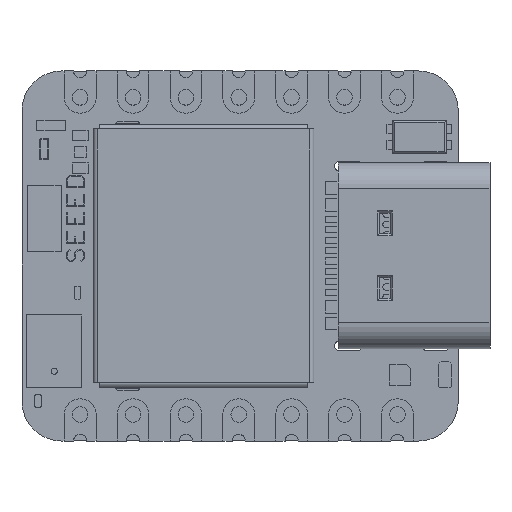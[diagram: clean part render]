
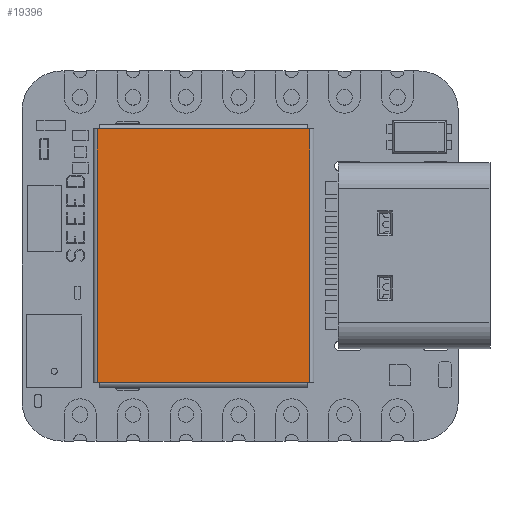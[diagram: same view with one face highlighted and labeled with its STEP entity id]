
A CAD part, top view. The second image highlights one B-rep face of the part: STEP entity #19396.
In plain terms, the highlighted planar face has unit normal (0, 0, 1).
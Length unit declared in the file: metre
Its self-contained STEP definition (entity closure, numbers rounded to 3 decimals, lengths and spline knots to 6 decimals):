
#287=PLANE('',#22740);
#2121=LINE('',#32166,#4289);
#2122=LINE('',#32169,#4290);
#2123=LINE('',#32170,#4291);
#2124=LINE('',#32172,#4292);
#2125=LINE('',#32174,#4293);
#2126=LINE('',#32176,#4294);
#2127=LINE('',#32178,#4295);
#2128=LINE('',#32180,#4296);
#4289=VECTOR('',#26190,1.);
#4290=VECTOR('',#26191,1.);
#4291=VECTOR('',#26192,1.);
#4292=VECTOR('',#26193,1.);
#4293=VECTOR('',#26194,1.);
#4294=VECTOR('',#26195,1.);
#4295=VECTOR('',#26196,1.);
#4296=VECTOR('',#26197,1.);
#7558=ORIENTED_EDGE('',*,*,#12444,.F.);
#7559=ORIENTED_EDGE('',*,*,#12445,.F.);
#7560=ORIENTED_EDGE('',*,*,#12446,.F.);
#7561=ORIENTED_EDGE('',*,*,#12447,.F.);
#7562=ORIENTED_EDGE('',*,*,#12448,.F.);
#7563=ORIENTED_EDGE('',*,*,#12449,.T.);
#7564=ORIENTED_EDGE('',*,*,#12450,.T.);
#7565=ORIENTED_EDGE('',*,*,#12451,.T.);
#12444=EDGE_CURVE('',#14921,#14922,#2121,.T.);
#12445=EDGE_CURVE('',#14919,#14921,#2122,.T.);
#12446=EDGE_CURVE('',#14923,#14919,#2123,.T.);
#12447=EDGE_CURVE('',#14924,#14923,#2124,.T.);
#12448=EDGE_CURVE('',#14925,#14924,#2125,.T.);
#12449=EDGE_CURVE('',#14925,#14926,#2126,.T.);
#12450=EDGE_CURVE('',#14926,#14927,#2127,.T.);
#12451=EDGE_CURVE('',#14927,#14922,#2128,.T.);
#14919=VERTEX_POINT('',#32160);
#14921=VERTEX_POINT('',#32167);
#14922=VERTEX_POINT('',#32168);
#14923=VERTEX_POINT('',#32171);
#14924=VERTEX_POINT('',#32173);
#14925=VERTEX_POINT('',#32175);
#14926=VERTEX_POINT('',#32177);
#14927=VERTEX_POINT('',#32179);
#16773=EDGE_LOOP('',(#7558,#7559,#7560,#7561,#7562,#7563,#7564,#7565));
#18009=FACE_BOUND('',#16773,.T.);
#19396=ADVANCED_FACE('',(#18009),#287,.T.);
#22740=AXIS2_PLACEMENT_3D('',#32165,#26188,#26189);
#26188=DIRECTION('',(0.,0.,1.));
#26189=DIRECTION('',(0.,-1.,0.));
#26190=DIRECTION('',(0.,-1.,0.));
#26191=DIRECTION('',(1.,0.,0.));
#26192=DIRECTION('',(1.,0.,0.));
#26193=DIRECTION('',(1.,0.,0.));
#26194=DIRECTION('',(0.,1.,0.));
#26195=DIRECTION('',(1.,0.,0.));
#26196=DIRECTION('',(1.,0.,0.));
#26197=DIRECTION('',(1.,0.,0.));
#32160=CARTESIAN_POINT('',(0.031074,0.012439,0.007245));
#32165=CARTESIAN_POINT('',(0.027606,0.006339,0.007245));
#32166=CARTESIAN_POINT('',(0.031174,0.003227,0.007245));
#32167=CARTESIAN_POINT('',(0.031174,0.012439,0.007245));
#32168=CARTESIAN_POINT('',(0.031174,0.000239,0.007245));
#32169=CARTESIAN_POINT('',(0.026074,0.012439,0.007245));
#32170=CARTESIAN_POINT('',(0.02434,0.012439,0.007245));
#32171=CARTESIAN_POINT('',(0.021074,0.012439,0.007245));
#32172=CARTESIAN_POINT('',(0.026074,0.012439,0.007245));
#32173=CARTESIAN_POINT('',(0.020974,0.012439,0.007245));
#32174=CARTESIAN_POINT('',(0.020974,0.00945,0.007245));
#32175=CARTESIAN_POINT('',(0.020974,0.000239,0.007245));
#32176=CARTESIAN_POINT('',(0.027606,0.000239,0.007245));
#32177=CARTESIAN_POINT('',(0.021074,0.000239,0.007245));
#32178=CARTESIAN_POINT('',(0.02444,0.000239,0.007245));
#32179=CARTESIAN_POINT('',(0.031074,0.000239,0.007245));
#32180=CARTESIAN_POINT('',(0.027606,0.000239,0.007245));
